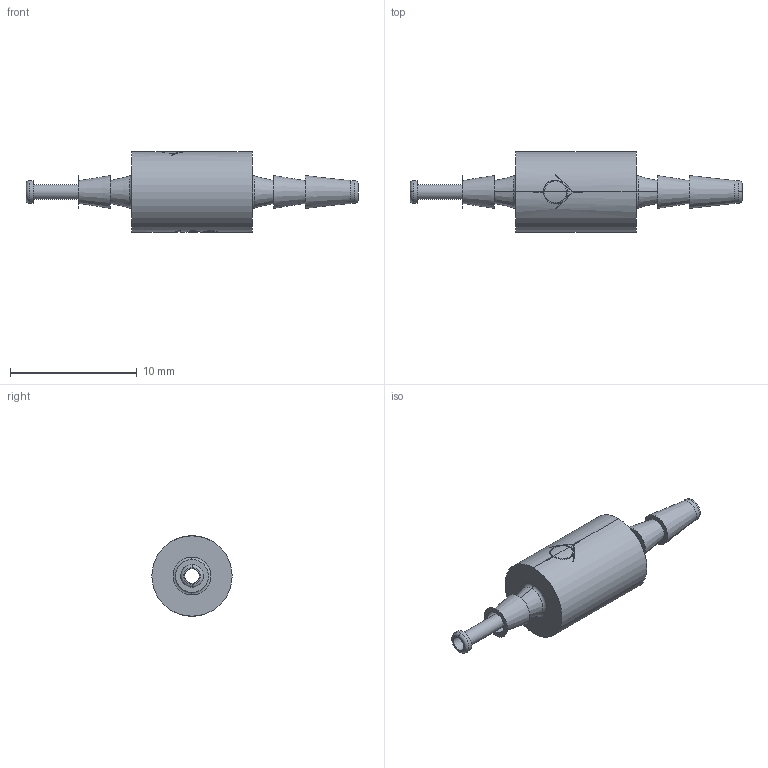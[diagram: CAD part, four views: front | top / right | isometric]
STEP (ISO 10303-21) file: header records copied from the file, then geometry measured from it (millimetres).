
FILE_DESCRIPTION(/* description */ ('SolidWorks IGES file using NURBS representation for surfaces '),/* implementation_level */ '2;1');
FILE_NAME(/* name */ 'K:\Normteile INVENTOR\Air-Logic\Check Valves\F-2804-402-B80.IGS.ipt.stp',/* time_stamp */ '2020-05-27T10:36:05+02:00',/* author */ ('amarsh'),/* organization */ (''),/* preprocessor_version */ 'ST-DEVELOPER v18',/* originating_system */ 'Autodesk Inventor 2020',/* authorisation */ '');
FILE_SCHEMA (('AUTOMOTIVE_DESIGN { 1 0 10303 214 3 1 1 }'));
Length unit declared in the file: millimetre
Products named in the file (1): F-2804-402-B80.IGS
Bounding box: 26.22 x 6.35 x 6.35 mm (x, y, z)
Surface area: 467.1 mm2 (no closed solid volume)
Topology: 0 solids, 2 shells, 94 faces, 258 edges, 174 vertices
Faces by surface type: bspline 35, plane 27, cylinder 16, torus 8, cone 8
Full cylindrical faces by diameter (mm): 1.17 x1, 1.8 x2
Entity records: 5725 total; most frequent: CARTESIAN_POINT 3463, ORIENTED_EDGE 510, DIRECTION 372, EDGE_CURVE 258, VERTEX_POINT 174, AXIS2_PLACEMENT_3D 135, EDGE_LOOP 104, LINE 102
